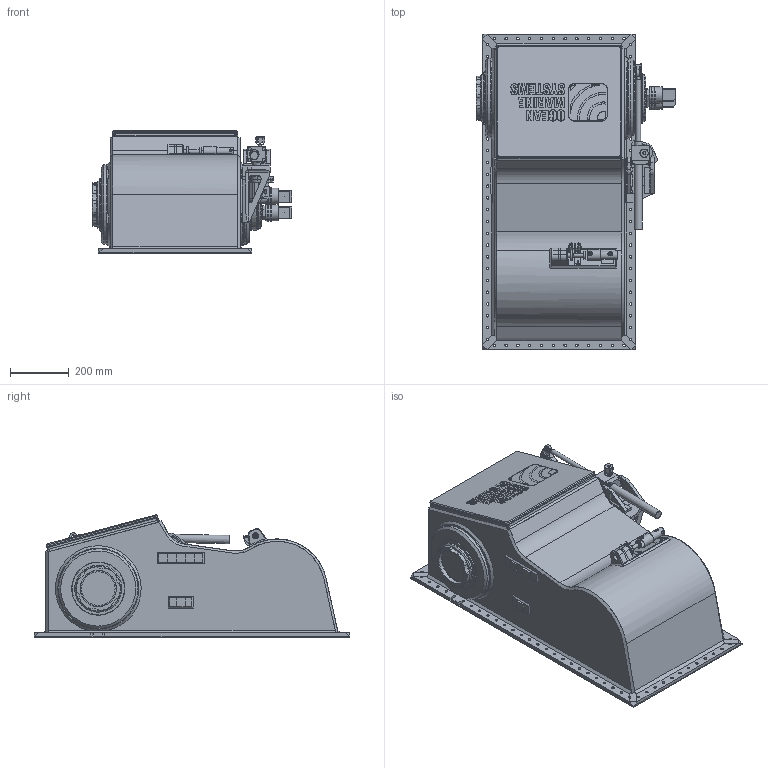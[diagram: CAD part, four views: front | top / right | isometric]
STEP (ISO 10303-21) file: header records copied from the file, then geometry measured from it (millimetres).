
FILE_DESCRIPTION(/* description */ (''),/* implementation_level */ '2;1');
FILE_NAME(/* name */ 'Q:\THRUSTERS\THRUSTER SALES & SUPPORT DOCS\THRUSTER Sales\H-S\H-0300-S\H-0300-S Retracted.stp',/* time_stamp */ '2021-01-26T11:40:50+00:00',/* author */ ('Barney.Webborn'),/* organization */ (''),/* preprocessor_version */ 'ST-DEVELOPER v17.2',/* originating_system */ 'Autodesk Inventor 2019',/* authorisation */ '');
FILE_SCHEMA (('AUTOMOTIVE_DESIGN { 1 0 10303 214 3 1 1 }'));
Products named in the file (1): H-0300-S_Shrinkwrap_1
Bounding box: 676 x 1072 x 415.45 mm (x, y, z)
Volume: 32711816.7 mm3; surface area: 5915008.6 mm2
Topology: 10 solids, 10 shells, 2625 faces, 6961 edges, 4478 vertices
Faces by surface type: plane 1381, cylinder 752, cone 222, bspline 154, torus 106, sphere 10
Full cylindrical faces by diameter (mm): 3 x8, 4 x2, 5 x2, 5.5 x4, 8.5 x148, 8.566 x4, 9 x2, 10 x4, 10.3 x5, 10.5 x2, 11 x4, 11.445 x1, 12 x5, 12.7 x1, 14 x2, 14.95 x2, 15 x3, 16 x2, 18 x2, 18.631 x5, 20 x2, 23 x1, 25 x6, 26 x1, 26.25 x1, 27 x2, 28 x2, 29 x2, 30 x1, 30.291 x6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
Entity records: 94814 total; most frequent: CARTESIAN_POINT 26273, ORIENTED_EDGE 13868, DIRECTION 13470, EDGE_CURVE 6934, AXIS2_PLACEMENT_3D 4749, VERTEX_POINT 4478, LINE 3972, VECTOR 3972
